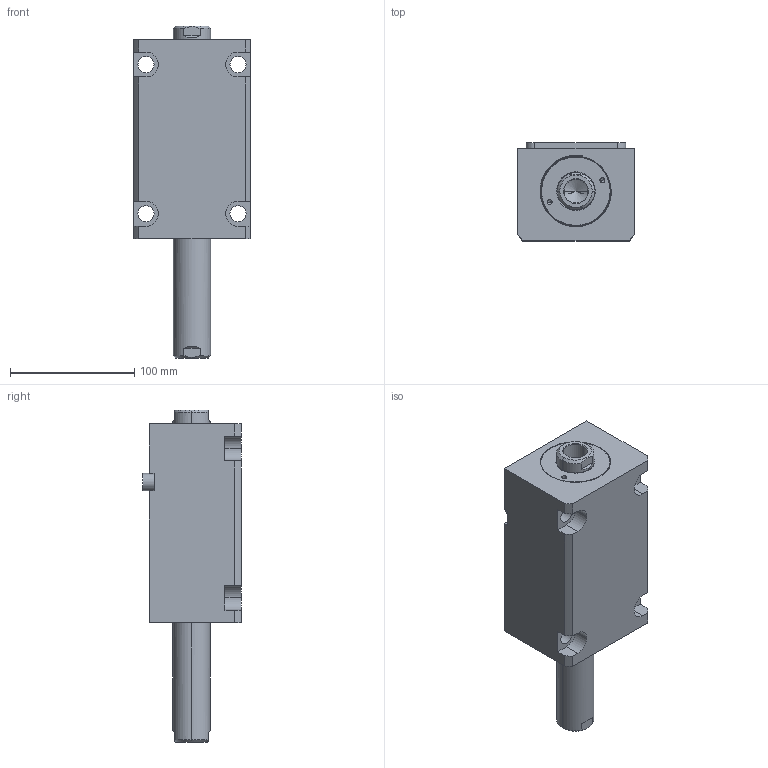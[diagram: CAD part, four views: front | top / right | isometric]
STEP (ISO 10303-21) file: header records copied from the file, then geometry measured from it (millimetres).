
FILE_DESCRIPTION (( 'STEP AP203' ), '1' );
FILE_NAME ('CHTB-LWM50-85N.STEP', '2018-05-22T06:47:14', ( '' ), ( '' ), 'SwSTEP 2.0', 'SolidWorks 2015', '' );
FILE_SCHEMA (( 'CONFIG_CONTROL_DESIGN' ));
Length unit declared in the file: millimetre
Products named in the file (4): CHTM-SDMA50QG; CHTB-LWM50-85N; 活塞杆LWM50-85N; 掛极LWM50-85N
Assembly tree (3 placements, depth 2):
  CHTB-LWM50-85N
    掛极LWM50-85N
    活塞杆LWM50-85N
    CHTM-SDMA50QG
Bounding box: 94 x 79 x 267 mm (x, y, z)
Volume: 1009384.7 mm3; surface area: 151336.8 mm2
Topology: 3 solids, 3 shells, 213 faces, 571 edges, 374 vertices
Faces by surface type: cylinder 104, plane 57, cone 22, torus 16, bspline 14
Entity records: 11569 total; most frequent: CARTESIAN_POINT 6050, ORIENTED_EDGE 1126, DIRECTION 1011, EDGE_CURVE 563, AXIS2_PLACEMENT_3D 396, VERTEX_POINT 374, EDGE_LOOP 247, VECTOR 219
